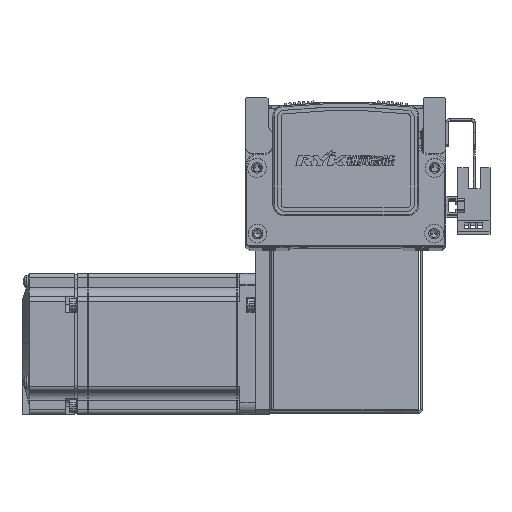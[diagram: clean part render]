
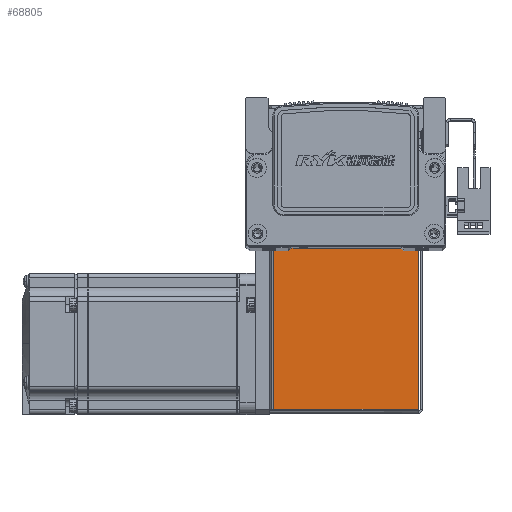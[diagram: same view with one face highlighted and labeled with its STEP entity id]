
A CAD part, top view. The second image highlights one B-rep face of the part: STEP entity #68805.
In plain terms, the highlighted planar face has unit normal (0, 0, 1) as drawn and (0, 0, -1) by its records, which use the part's own axes.
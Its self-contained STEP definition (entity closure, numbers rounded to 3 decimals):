
#6305 = FACE_OUTER_BOUND ( 'NONE', #62297, .T. ) ;
#17306 = CARTESIAN_POINT ( 'NONE',  ( 0., 0., -35. ) ) ;
#17308 = DIRECTION ( 'NONE',  ( 0., 0., 1. ) ) ;
#17309 = DIRECTION ( 'NONE',  ( 0., -1., 0. ) ) ;
#17317 = PLANE ( 'NONE',  #71402 ) ;
#22197 = CARTESIAN_POINT ( 'NONE',  ( 30.763, 0.737, -35. ) ) ;
#22211 = CARTESIAN_POINT ( 'NONE',  ( -30.793, 0.737, -35. ) ) ;
#23722 = EDGE_CURVE ( 'NONE', #29954, #29896, #69575, .T. ) ;
#23735 = EDGE_CURVE ( 'NONE', #29890, #29924, #69689, .T. ) ;
#23881 = EDGE_CURVE ( 'NONE', #29954, #29924, #69850, .T. ) ;
#23884 = EDGE_CURVE ( 'NONE', #29896, #29890, #69911, .T. ) ;
#29890 = VERTEX_POINT ( 'NONE', #34559 ) ;
#29896 = VERTEX_POINT ( 'NONE', #34555 ) ;
#29924 = VERTEX_POINT ( 'NONE', #22197 ) ;
#29954 = VERTEX_POINT ( 'NONE', #22211 ) ;
#34555 = CARTESIAN_POINT ( 'NONE',  ( -30.793, 72.5, -35. ) ) ;
#34559 = CARTESIAN_POINT ( 'NONE',  ( 30.763, 72.5, -35. ) ) ;
#47870 = CARTESIAN_POINT ( 'NONE',  ( -30.793, 0., -35. ) ) ;
#47872 = CARTESIAN_POINT ( 'NONE',  ( 30.763, 72.5, -35. ) ) ;
#47878 = DIRECTION ( 'NONE',  ( 0., 1., 0. ) ) ;
#47885 = DIRECTION ( 'NONE',  ( 0., -1., 0. ) ) ;
#48205 = CARTESIAN_POINT ( 'NONE',  ( 32.5, 0.737, -35. ) ) ;
#48249 = DIRECTION ( 'NONE',  ( 1., 0., 0. ) ) ;
#48254 = CARTESIAN_POINT ( 'NONE',  ( 0., 72.5, -35. ) ) ;
#48271 = DIRECTION ( 'NONE',  ( 1., 0., 0. ) ) ;
#55097 = ORIENTED_EDGE ( 'NONE', *, *, #23735, .T. ) ;
#55119 = ORIENTED_EDGE ( 'NONE', *, *, #23881, .F. ) ;
#55142 = ORIENTED_EDGE ( 'NONE', *, *, #23884, .T. ) ;
#55177 = ORIENTED_EDGE ( 'NONE', *, *, #23722, .T. ) ;
#62297 = EDGE_LOOP ( 'NONE', ( #55097, #55119, #55177, #55142 ) ) ;
#68805 = ADVANCED_FACE ( 'NONE', ( #6305 ), #17317, .F. ) ;
#69575 = LINE ( 'NONE', #47870, #69628 ) ;
#69628 = VECTOR ( 'NONE', #47878, 1000. ) ;
#69689 = LINE ( 'NONE', #47872, #69721 ) ;
#69721 = VECTOR ( 'NONE', #47885, 1000. ) ;
#69850 = LINE ( 'NONE', #48205, #69953 ) ;
#69911 = LINE ( 'NONE', #48254, #69955 ) ;
#69953 = VECTOR ( 'NONE', #48249, 1000. ) ;
#69955 = VECTOR ( 'NONE', #48271, 1000. ) ;
#71402 = AXIS2_PLACEMENT_3D ( 'NONE', #17306, #17308, #17309 ) ;
